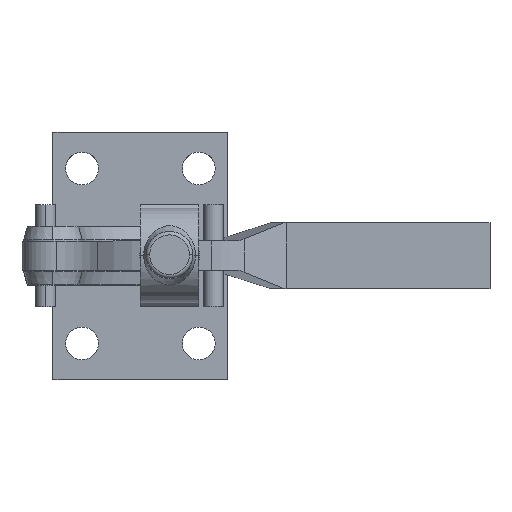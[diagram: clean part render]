
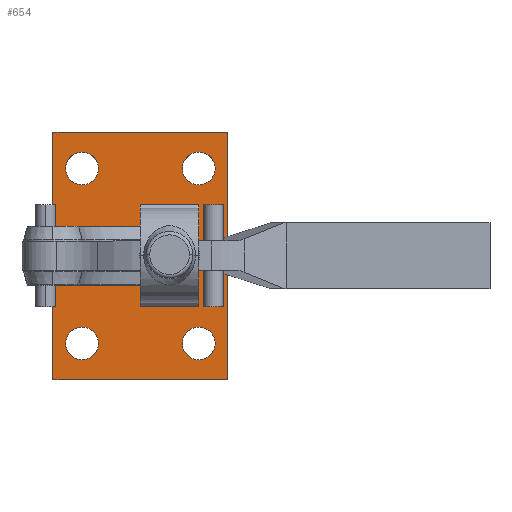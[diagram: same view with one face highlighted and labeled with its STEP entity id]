
A CAD part, top view. The second image highlights one B-rep face of the part: STEP entity #654.
In plain terms, the highlighted planar face has unit normal (0, 0, 1).
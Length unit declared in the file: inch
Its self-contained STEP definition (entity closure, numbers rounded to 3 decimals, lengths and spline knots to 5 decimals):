
#654 = ADVANCED_FACE( '', ( #854, #855, #856, #857, #858 ), #859, .F. );
#854 = FACE_OUTER_BOUND( '', #1284, .T. );
#855 = FACE_BOUND( '', #1285, .T. );
#856 = FACE_BOUND( '', #1286, .T. );
#857 = FACE_BOUND( '', #1287, .T. );
#858 = FACE_BOUND( '', #1288, .T. );
#859 = PLANE( '', #1289 );
#1284 = EDGE_LOOP( '', ( #1734, #1735, #1736, #1737 ) );
#1285 = EDGE_LOOP( '', ( #1738, #1739 ) );
#1286 = EDGE_LOOP( '', ( #1740, #1741 ) );
#1287 = EDGE_LOOP( '', ( #1742, #1743 ) );
#1288 = EDGE_LOOP( '', ( #1744, #1745 ) );
#1289 = AXIS2_PLACEMENT_3D( '', #1746, #1747, #1748 );
#1734 = ORIENTED_EDGE( '', *, *, #3333, .T. );
#1735 = ORIENTED_EDGE( '', *, *, #3334, .T. );
#1736 = ORIENTED_EDGE( '', *, *, #3335, .T. );
#1737 = ORIENTED_EDGE( '', *, *, #3336, .T. );
#1738 = ORIENTED_EDGE( '', *, *, #3332, .F. );
#1739 = ORIENTED_EDGE( '', *, *, #3337, .F. );
#1740 = ORIENTED_EDGE( '', *, *, #3328, .F. );
#1741 = ORIENTED_EDGE( '', *, *, #3338, .F. );
#1742 = ORIENTED_EDGE( '', *, *, #3324, .F. );
#1743 = ORIENTED_EDGE( '', *, *, #3339, .F. );
#1744 = ORIENTED_EDGE( '', *, *, #3320, .F. );
#1745 = ORIENTED_EDGE( '', *, *, #3340, .F. );
#1746 = CARTESIAN_POINT( '', ( 0.5, 0.75, 0. ) );
#1747 = DIRECTION( '', ( 0., 0., -1. ) );
#1748 = DIRECTION( '', ( 0., -1., 0. ) );
#3320 = EDGE_CURVE( '', #3835, #3831, #3837, .T. );
#3324 = EDGE_CURVE( '', #3843, #3839, #3845, .T. );
#3328 = EDGE_CURVE( '', #3851, #3847, #3853, .T. );
#3332 = EDGE_CURVE( '', #3859, #3855, #3861, .T. );
#3333 = EDGE_CURVE( '', #3862, #3863, #3864, .T. );
#3334 = EDGE_CURVE( '', #3863, #3865, #3866, .T. );
#3335 = EDGE_CURVE( '', #3865, #3867, #3868, .T. );
#3336 = EDGE_CURVE( '', #3867, #3862, #3869, .T. );
#3337 = EDGE_CURVE( '', #3855, #3859, #3870, .T. );
#3338 = EDGE_CURVE( '', #3847, #3851, #3871, .T. );
#3339 = EDGE_CURVE( '', #3839, #3843, #3872, .T. );
#3340 = EDGE_CURVE( '', #3831, #3835, #3873, .T. );
#3831 = VERTEX_POINT( '', #4688 );
#3835 = VERTEX_POINT( '', #4693 );
#3837 = CIRCLE( '', #4696, 0.14063 );
#3839 = VERTEX_POINT( '', #4698 );
#3843 = VERTEX_POINT( '', #4703 );
#3845 = CIRCLE( '', #4706, 0.14063 );
#3847 = VERTEX_POINT( '', #4708 );
#3851 = VERTEX_POINT( '', #4713 );
#3853 = CIRCLE( '', #4716, 0.14063 );
#3855 = VERTEX_POINT( '', #4718 );
#3859 = VERTEX_POINT( '', #4723 );
#3861 = CIRCLE( '', #4726, 0.14063 );
#3862 = VERTEX_POINT( '', #4727 );
#3863 = VERTEX_POINT( '', #4728 );
#3864 = LINE( '', #4729, #4730 );
#3865 = VERTEX_POINT( '', #4731 );
#3866 = LINE( '', #4732, #4733 );
#3867 = VERTEX_POINT( '', #4734 );
#3868 = LINE( '', #4735, #4736 );
#3869 = LINE( '', #4737, #4738 );
#3870 = CIRCLE( '', #4739, 0.14063 );
#3871 = CIRCLE( '', #4740, 0.14063 );
#3872 = CIRCLE( '', #4741, 0.14063 );
#3873 = CIRCLE( '', #4742, 0.14063 );
#4688 = CARTESIAN_POINT( '', ( 1.64063, 0.75, 0. ) );
#4693 = CARTESIAN_POINT( '', ( 1.35938, 0.75, 0. ) );
#4696 = AXIS2_PLACEMENT_3D( '', #5894, #5895, #5896 );
#4698 = CARTESIAN_POINT( '', ( 1.64063, -0.75, 0. ) );
#4703 = CARTESIAN_POINT( '', ( 1.35938, -0.75, 0. ) );
#4706 = AXIS2_PLACEMENT_3D( '', #5902, #5903, #5904 );
#4708 = CARTESIAN_POINT( '', ( 0.64063, -0.75, 0. ) );
#4713 = CARTESIAN_POINT( '', ( 0.35938, -0.75, 0. ) );
#4716 = AXIS2_PLACEMENT_3D( '', #5910, #5911, #5912 );
#4718 = CARTESIAN_POINT( '', ( 0.64063, 0.75, 0. ) );
#4723 = CARTESIAN_POINT( '', ( 0.35938, 0.75, 0. ) );
#4726 = AXIS2_PLACEMENT_3D( '', #5918, #5919, #5920 );
#4727 = CARTESIAN_POINT( '', ( 0.25, -1.0625, 0. ) );
#4728 = CARTESIAN_POINT( '', ( 1.75, -1.0625, 0. ) );
#4729 = CARTESIAN_POINT( '', ( 0.25, -1.0625, 0. ) );
#4730 = VECTOR( '', #5921, 1. );
#4731 = CARTESIAN_POINT( '', ( 1.75, 1.0625, 0. ) );
#4732 = CARTESIAN_POINT( '', ( 1.75, -1.0625, 0. ) );
#4733 = VECTOR( '', #5922, 1. );
#4734 = CARTESIAN_POINT( '', ( 0.25, 1.0625, 0. ) );
#4735 = CARTESIAN_POINT( '', ( 1.75, 1.0625, 0. ) );
#4736 = VECTOR( '', #5923, 1. );
#4737 = CARTESIAN_POINT( '', ( 0.25, 1.0625, 0. ) );
#4738 = VECTOR( '', #5924, 1. );
#4739 = AXIS2_PLACEMENT_3D( '', #5925, #5926, #5927 );
#4740 = AXIS2_PLACEMENT_3D( '', #5928, #5929, #5930 );
#4741 = AXIS2_PLACEMENT_3D( '', #5931, #5932, #5933 );
#4742 = AXIS2_PLACEMENT_3D( '', #5934, #5935, #5936 );
#5894 = CARTESIAN_POINT( '', ( 1.5, 0.75, 0. ) );
#5895 = DIRECTION( '', ( 0., 0., 1. ) );
#5896 = DIRECTION( '', ( -1., 0., 0. ) );
#5902 = CARTESIAN_POINT( '', ( 1.5, -0.75, 0. ) );
#5903 = DIRECTION( '', ( 0., 0., 1. ) );
#5904 = DIRECTION( '', ( -1., 0., 0. ) );
#5910 = CARTESIAN_POINT( '', ( 0.5, -0.75, 0. ) );
#5911 = DIRECTION( '', ( 0., 0., 1. ) );
#5912 = DIRECTION( '', ( -1., 0., 0. ) );
#5918 = CARTESIAN_POINT( '', ( 0.5, 0.75, 0. ) );
#5919 = DIRECTION( '', ( 0., 0., 1. ) );
#5920 = DIRECTION( '', ( -1., 0., 0. ) );
#5921 = DIRECTION( '', ( 1., 0., 0. ) );
#5922 = DIRECTION( '', ( 0., 1., 0. ) );
#5923 = DIRECTION( '', ( -1., 0., 0. ) );
#5924 = DIRECTION( '', ( 0., -1., 0. ) );
#5925 = CARTESIAN_POINT( '', ( 0.5, 0.75, 0. ) );
#5926 = DIRECTION( '', ( 0., 0., 1. ) );
#5927 = DIRECTION( '', ( -1., 0., 0. ) );
#5928 = CARTESIAN_POINT( '', ( 0.5, -0.75, 0. ) );
#5929 = DIRECTION( '', ( 0., 0., 1. ) );
#5930 = DIRECTION( '', ( -1., 0., 0. ) );
#5931 = CARTESIAN_POINT( '', ( 1.5, -0.75, 0. ) );
#5932 = DIRECTION( '', ( 0., 0., 1. ) );
#5933 = DIRECTION( '', ( -1., 0., 0. ) );
#5934 = CARTESIAN_POINT( '', ( 1.5, 0.75, 0. ) );
#5935 = DIRECTION( '', ( 0., 0., 1. ) );
#5936 = DIRECTION( '', ( -1., 0., 0. ) );
